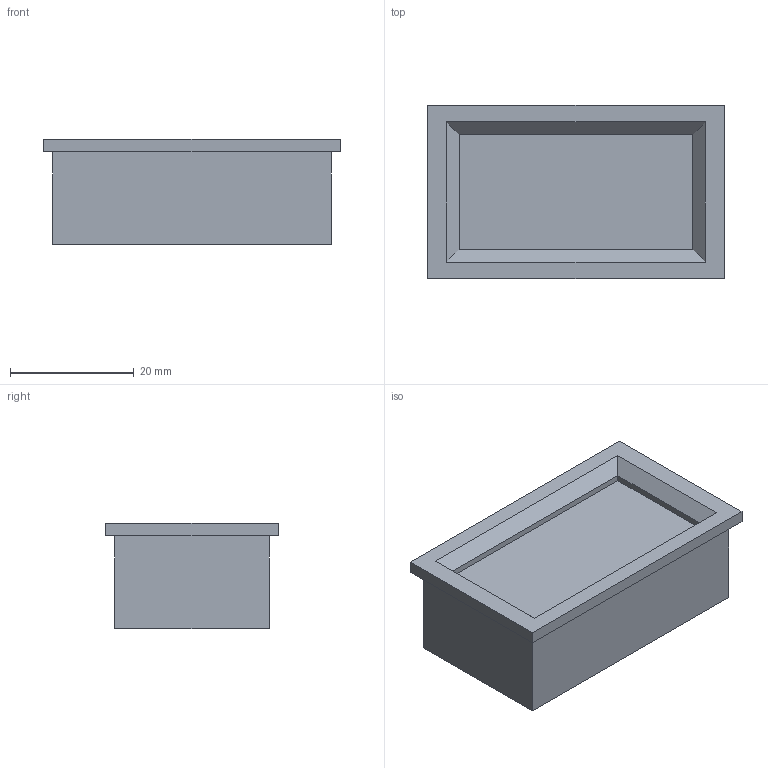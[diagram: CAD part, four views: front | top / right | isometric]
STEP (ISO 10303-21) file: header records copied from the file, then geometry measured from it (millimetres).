
FILE_DESCRIPTION(('FreeCAD Model'),'2;1');
FILE_NAME('Open CASCADE Shape Model','2023-11-28T00:25:32',('Author'),( ''),'Open CASCADE STEP processor 7.5','FreeCAD','Unknown');
FILE_SCHEMA(('AUTOMOTIVE_DESIGN { 1 0 10303 214 1 1 1 1 }'));
Length unit declared in the file: millimetre
Products named in the file (2): Vmeter; Body076
Assembly tree (1 placements, depth 2):
  Vmeter
    Body076
Bounding box: 48 x 28 x 17 mm (x, y, z)
Volume: 17203.4 mm3; surface area: 5305.4 mm2
Topology: 1 solids, 1 shells, 20 faces, 44 edges, 28 vertices
Faces by surface type: plane 20
Entity records: 1148 total; most frequent: CARTESIAN_POINT 182, DIRECTION 176, LINE 132, VECTOR 132, ORIENTED_EDGE 88, PCURVE 88, DEFINITIONAL_REPRESENTATION 88, EDGE_CURVE 44
